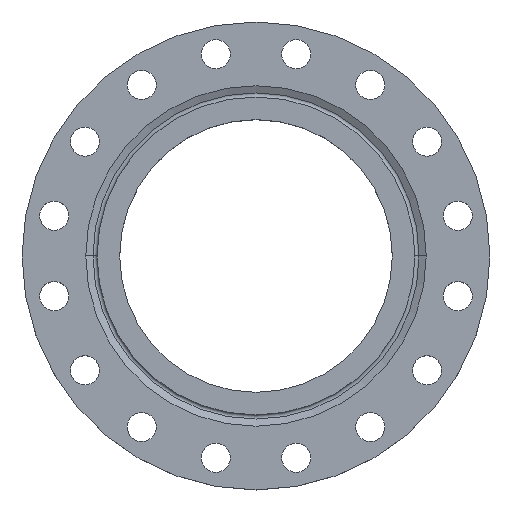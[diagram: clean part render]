
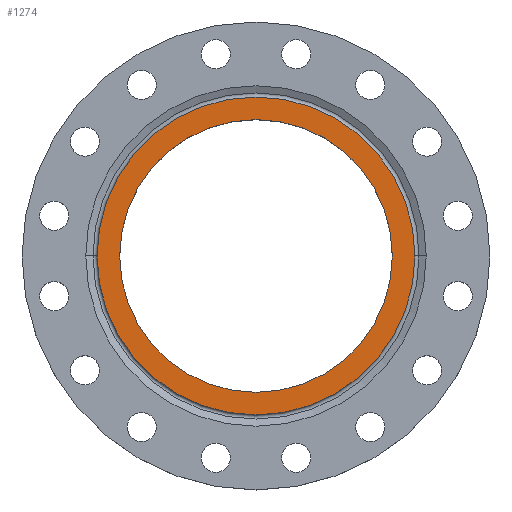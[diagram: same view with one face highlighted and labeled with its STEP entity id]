
A CAD part, top view. The second image highlights one B-rep face of the part: STEP entity #1274.
In plain terms, the highlighted planar face has unit normal (0, 0, 1).
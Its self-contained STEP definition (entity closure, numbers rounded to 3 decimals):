
#57 = CIRCLE ( 'NONE', #888, 197. ) ;
#219 = EDGE_CURVE ( 'NONE', #553, #624, #892, .T. ) ;
#264 = AXIS2_PLACEMENT_3D ( 'NONE', #1446, #1445, #1444 ) ;
#310 = EDGE_CURVE ( 'NONE', #624, #553, #57, .T. ) ;
#351 = PLANE ( 'NONE',  #672 ) ;
#355 = FACE_OUTER_BOUND ( 'NONE', #1635, .T. ) ;
#362 = FACE_BOUND ( 'NONE', #1648, .T. ) ;
#384 = DIRECTION ( 'NONE',  ( 1., 0., 0. ) ) ;
#388 = DIRECTION ( 'NONE',  ( 0., 0., 1. ) ) ;
#389 = CARTESIAN_POINT ( 'NONE',  ( 0., 0., 0. ) ) ;
#528 = DIRECTION ( 'NONE',  ( -1., 0., 0. ) ) ;
#530 = DIRECTION ( 'NONE',  ( 0., 0., -1. ) ) ;
#534 = CARTESIAN_POINT ( 'NONE',  ( 0., 0., 0. ) ) ;
#553 = VERTEX_POINT ( 'NONE', #1146 ) ;
#624 = VERTEX_POINT ( 'NONE', #1091 ) ;
#666 = VERTEX_POINT ( 'NONE', #1059 ) ;
#672 = AXIS2_PLACEMENT_3D ( 'NONE', #389, #388, #384 ) ;
#753 = CARTESIAN_POINT ( 'NONE',  ( 169., 0., 0. ) ) ;
#780 = DIRECTION ( 'NONE',  ( -1., 0., 0. ) ) ;
#781 = DIRECTION ( 'NONE',  ( 0., 0., -1. ) ) ;
#782 = CARTESIAN_POINT ( 'NONE',  ( 0., 0., 0. ) ) ;
#888 = AXIS2_PLACEMENT_3D ( 'NONE', #1296, #1295, #1294 ) ;
#892 = CIRCLE ( 'NONE', #264, 197. ) ;
#1059 = CARTESIAN_POINT ( 'NONE',  ( -169., 0., 0. ) ) ;
#1091 = CARTESIAN_POINT ( 'NONE',  ( 197., 0., 0. ) ) ;
#1146 = CARTESIAN_POINT ( 'NONE',  ( -197., 0., 0. ) ) ;
#1152 = EDGE_CURVE ( 'NONE', #666, #1585, #1607, .T. ) ;
#1158 = CIRCLE ( 'NONE', #1163, 169. ) ;
#1163 = AXIS2_PLACEMENT_3D ( 'NONE', #782, #781, #780 ) ;
#1274 = ADVANCED_FACE ( 'NONE', ( #362, #355 ), #351, .T. ) ;
#1294 = DIRECTION ( 'NONE',  ( -1., 0., 0. ) ) ;
#1295 = DIRECTION ( 'NONE',  ( 0., 0., -1. ) ) ;
#1296 = CARTESIAN_POINT ( 'NONE',  ( 0., 0., 0. ) ) ;
#1444 = DIRECTION ( 'NONE',  ( -1., 0., 0. ) ) ;
#1445 = DIRECTION ( 'NONE',  ( 0., 0., -1. ) ) ;
#1446 = CARTESIAN_POINT ( 'NONE',  ( 0., 0., 0. ) ) ;
#1572 = EDGE_CURVE ( 'NONE', #1585, #666, #1158, .T. ) ;
#1585 = VERTEX_POINT ( 'NONE', #753 ) ;
#1607 = CIRCLE ( 'NONE', #1657, 169. ) ;
#1635 = EDGE_LOOP ( 'NONE', ( #1803, #1804 ) ) ;
#1648 = EDGE_LOOP ( 'NONE', ( #1800, #1802 ) ) ;
#1657 = AXIS2_PLACEMENT_3D ( 'NONE', #534, #530, #528 ) ;
#1800 = ORIENTED_EDGE ( 'NONE', *, *, #1152, .T. ) ;
#1802 = ORIENTED_EDGE ( 'NONE', *, *, #1572, .T. ) ;
#1803 = ORIENTED_EDGE ( 'NONE', *, *, #219, .F. ) ;
#1804 = ORIENTED_EDGE ( 'NONE', *, *, #310, .F. ) ;
